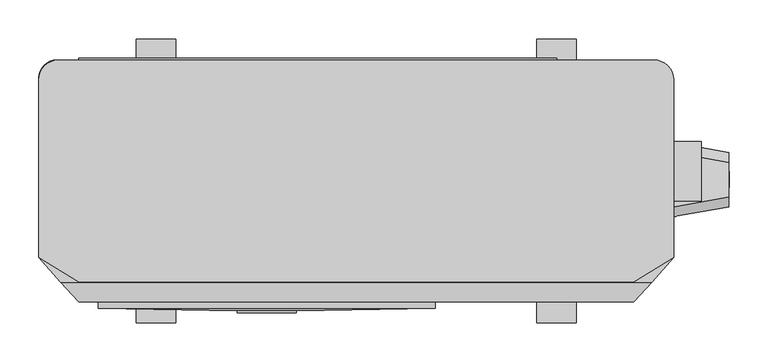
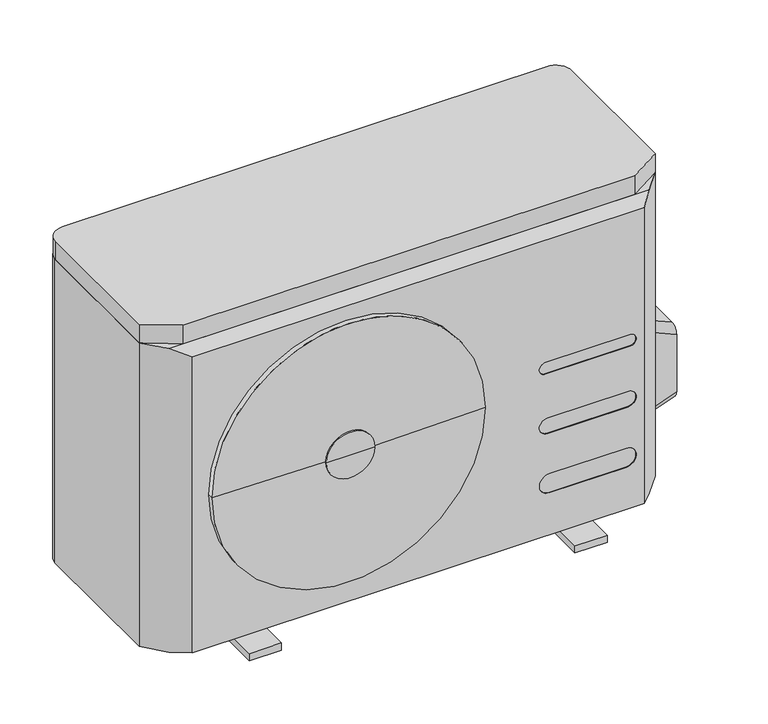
"""IFC4 building model written with IfcOpenShell, lengths in millimetres: proxy geometry, Heat Pump-Split System-Outdoor-Carrier-Single Phase-0.75-3 ton : 38MAQB12R--1 - 115 v."""

from ifc_helpers import new_model, si_unit, point, frame, frame_2d, origin, origin_with_axes, place, context, project, spatial, polyline, circle_curve, trimmed, segment, composite_curve, outline, extrude, source, transform, mapped, element, save
from ifc_brep_helpers import plane_surface, cylinder_surface, revolved_surface, extruded_surface, advanced_brep


def mechanical_equipment_aaba3eb6(model_context):
    return source(origin(), model_context, "Body", "SolidModel", [
        extrude(outline(composite_curve([segment(trimmed(circle_curve(frame_2d((276.987, -114.808)), 203.2), [point((276.987, -318.008))], [point((276.987, 88.392))], False, "CARTESIAN"), True, "CONTINUOUS"), segment(trimmed(circle_curve(frame_2d((276.987, -114.808)), 203.2), [point((276.987, 88.392))], [point((276.987, -318.008))], False, "CARTESIAN"), True, "CONTINUOUS")], self_intersect=False)), frame((0.0, -129.921, 0.0), z_axis=(0.0, 1.0, 0.0), x_axis=(0.0, 0.0, 1.0)), (0.0, 0.0, 1.0), 12.7),
        extrude(outline(composite_curve([segment(trimmed(circle_curve(frame_2d((0.0, -6.35)), 6.35), [point((0.0, -12.7))], [point((0.0, 0.0))], False, "CARTESIAN"), True, "CONTINUOUS"), segment(trimmed(circle_curve(frame_2d((0.0, -6.35)), 6.35), [point((0.0, 0.0))], [point((0.0, -12.7))], False, "CARTESIAN"), True, "CONTINUOUS")], self_intersect=False)), frame((427.7726844, -6.35, 388.2202311), z_axis=(-0.5000000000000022, 0.0, 0.8660254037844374), x_axis=(0.0, -1.0, 0.0)), (0.0, 0.0, 1.0), 12.7),
        extrude(outline(composite_curve([segment(trimmed(circle_curve(frame_2d((-38.1, -6.35)), 6.35), [point((-38.1, -12.7))], [point((-38.1, 0.0))], False, "CARTESIAN"), True, "CONTINUOUS"), segment(trimmed(circle_curve(frame_2d((-38.1, -6.35)), 6.35), [point((-38.1, 0.0))], [point((-38.1, -12.7))], False, "CARTESIAN"), True, "CONTINUOUS")], self_intersect=False)), frame((427.7726844, -6.35, 388.2202311), z_axis=(-0.5000000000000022, 0.0, 0.8660254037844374), x_axis=(0.0, -1.0, 0.0)), (0.0, 0.0, 1.0), 12.7),
        extrude(outline(polyline([(376.174, 406.908), (396.6312521, 442.341), (409.3312521, 442.341), (452.374, 406.908), (376.174, 406.908)])), frame((0.0, -25.4, 0.0), z_axis=(0.0, 1.0, 0.0), x_axis=(0.0, 0.0, 1.0)), (0.0, 0.0, 1.0), 76.2),
        extrude(outline(composite_curve([segment(trimmed(circle_curve(frame_2d((1.778, 161.798)), 10.16), [point((-8.382, 161.798))], [point((11.938, 161.798))], False, "CARTESIAN"), True, "CONTINUOUS"), segment(trimmed(circle_curve(frame_2d((1.778, 161.798)), 10.16), [point((11.938, 161.798))], [point((-8.382, 161.798))], False, "CARTESIAN"), True, "CONTINUOUS")], self_intersect=False)), frame((475.234, 0.0, 0.0), z_axis=(1.0, 0.0, 0.0), x_axis=(0.0, 1.0, 0.0)), (0.0, 0.0, 1.0), 2.794),
        extrude(outline(composite_curve([segment(trimmed(circle_curve(frame_2d((1.778, 99.314)), 6.985), [point((-5.207, 99.314))], [point((8.763, 99.314))], False, "CARTESIAN"), True, "CONTINUOUS"), segment(trimmed(circle_curve(frame_2d((1.778, 99.314)), 6.985), [point((8.763, 99.314))], [point((-5.207, 99.314))], False, "CARTESIAN"), True, "CONTINUOUS")], self_intersect=False)), frame((475.234, 0.0, 0.0), z_axis=(1.0, 0.0, 0.0), x_axis=(0.0, 1.0, 0.0)), (0.0, 0.0, 1.0), 2.794),
        advanced_brep(
        [(406.908, 36.703, 238.76), (406.908, 49.403, 226.06), (406.908, 49.403, 79.629), (406.908, 36.703, 66.929), (406.908, -33.147, 66.929), (406.908, -45.847, 79.629), (406.908, -45.847, 226.06), (406.908, -33.147, 238.76), (477.774, 24.003, 200.66), (477.774, -20.447, 200.66), (477.774, -33.147, 187.96), (477.774, -33.147, 92.329), (477.774, -20.447, 79.629), (477.774, 24.003, 79.629), (477.774, 36.703, 92.329), (477.774, 36.703, 187.96)],
        [
            (0, 1, circle_curve(frame((406.908, 36.703, 226.06), z_axis=(-1.0, 0.0, 0.0), x_axis=(0.0, 1.0, 0.0)), 12.7)),
            (1, 2),
            (2, 3, circle_curve(frame((406.908, 36.703, 79.629), z_axis=(-1.0, 0.0, 0.0), x_axis=(0.0, 1.0, 0.0)), 12.7)),
            (3, 4),
            (4, 5, circle_curve(frame((406.908, -33.147, 79.629), z_axis=(-1.0, 0.0, 0.0), x_axis=(0.0, 1.0, 0.0)), 12.7)),
            (5, 6),
            (6, 7, circle_curve(frame((406.908, -33.147, 226.06), z_axis=(-1.0, 0.0, 0.0), x_axis=(0.0, 1.0, 0.0)), 12.7)),
            (7, 0),
            (8, 9),
            (9, 10, circle_curve(frame((477.774, -20.447, 187.96), z_axis=(1.0, 0.0, 0.0), x_axis=(0.0, 1.0, 0.0)), 12.7)),
            (10, 11),
            (11, 12, circle_curve(frame((477.774, -20.447, 92.329), z_axis=(1.0, 0.0, 0.0), x_axis=(0.0, 1.0, 0.0)), 12.7)),
            (12, 13),
            (13, 14, circle_curve(frame((477.774, 24.003, 92.329), z_axis=(1.0, 0.0, 0.0), x_axis=(0.0, 1.0, 0.0)), 12.7)),
            (14, 15),
            (15, 8, circle_curve(frame((477.774, 24.003, 187.96), z_axis=(1.0, 0.0, 0.0), x_axis=(0.0, 1.0, 0.0)), 12.7)),
            (8, 0),
            (7, 9),
            (6, 10),
            (5, 11),
            (4, 12),
            (3, 13),
            (2, 14),
            (1, 15),
        ],
        [
            plane_surface(frame((406.908, 1.778, 152.8445), z_axis=(-1.0, 0.0, 0.0), x_axis=(0.0, -1.0, 0.0))),
            plane_surface(frame((477.774, 1.778, 140.1445), z_axis=(1.0, 0.0, 0.0), x_axis=(0.0, -1.0, 0.0))),
            plane_surface(frame((477.774, 1.778, 200.66), z_axis=(0.47353495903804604, 0.0, 0.8807750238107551), x_axis=(0.0, 1.0, 0.0))),
            extruded_surface(trimmed(circle_curve(frame((477.774, -20.447, 187.96), z_axis=(-1.0, 0.0, 0.0), x_axis=(0.0, 1.0, 0.0)), 12.7), [point((477.774, -33.147, 187.96))], [point((477.774, -20.447, 200.66))], True, "CARTESIAN"), (-70.86599999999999, -12.7, 38.099999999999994), 81.45483384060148),
            plane_surface(frame((477.774, -33.147, 140.1445), z_axis=(0.17640114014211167, -0.98431836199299, 0.0), x_axis=(0.0, 0.0, 1.0))),
            extruded_surface(trimmed(circle_curve(frame((477.774, -20.447, 92.329), z_axis=(-1.0, 0.0, 0.0), x_axis=(0.0, 1.0, 0.0)), 12.7), [point((477.774, -20.447, 79.629))], [point((477.774, -33.147, 92.329))], True, "CARTESIAN"), (-70.86599999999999, -12.7, -12.699999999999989), 73.10656575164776),
            plane_surface(frame((477.774, 1.778, 79.629), z_axis=(0.17640114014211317, 0.0, -0.9843183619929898), x_axis=(0.0, -1.0, 0.0))),
            extruded_surface(trimmed(circle_curve(frame((477.774, 24.003, 92.329), z_axis=(-1.0, 0.0, 0.0), x_axis=(0.0, 1.0, 0.0)), 12.7), [point((477.774, 36.703, 92.329))], [point((477.774, 24.003, 79.629))], True, "CARTESIAN"), (-70.86599999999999, 12.700000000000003, -12.699999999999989), 73.10656575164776),
            plane_surface(frame((477.774, 36.703, 140.1445), z_axis=(0.1764011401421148, 0.9843183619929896, 0.0), x_axis=(0.0, 0.0, -1.0))),
            extruded_surface(trimmed(circle_curve(frame((477.774, 24.003, 187.96), z_axis=(-1.0, 0.0, 0.0), x_axis=(0.0, 1.0, 0.0)), 12.7), [point((477.774, 24.003, 200.66))], [point((477.774, 36.703, 187.96))], True, "CARTESIAN"), (-70.86599999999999, 12.700000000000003, 38.099999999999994), 81.45483384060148),
        ],
        [
            (0, [[1, 2, 3, 4, 5, 6, 7, 8]]),
            (1, [[9, 10, 11, 12, 13, 14, 15, 16]]),
            (2, [[-9, 17, -8, 18]]),
            (3, [[-10, -18, -7, 19]]),
            (4, [[-11, -19, -6, 20]]),
            (5, [[-12, -20, -5, 21]]),
            (6, [[-13, -21, -4, 22]]),
            (7, [[-14, -22, -3, 23]]),
            (8, [[-15, -23, -2, 24]]),
            (9, [[-16, -24, -1, -17]]),
        ],
    ),
        advanced_brep(
        [(101.092, -163.3934895, 276.987), (-330.708, -163.3934895, 276.987), (-330.708, -155.321, 276.987), (101.092, -155.321, 276.987), (-114.808, -155.321, 276.987), (-76.708, -166.497, 276.987), (-152.908, -166.497, 276.987), (-76.708, -169.037, 276.987), (-152.908, -169.037, 276.987), (-114.808, -169.037, 276.987)],
        [
            (0, 1, circle_curve(frame((-114.808, -163.3934895, 276.987), z_axis=(0.0, 1.0, 0.0), x_axis=(-1.0, 0.0, 0.0)), 215.9)),
            (1, 2),
            (2, 3, circle_curve(frame((-114.808, -155.321, 276.987), z_axis=(0.0, -1.0, 0.0), x_axis=(-1.0, 0.0, 0.0)), 215.9)),
            (3, 0),
            (1, 0, circle_curve(frame((-114.808, -163.3934895, 276.987), z_axis=(0.0, 1.0, 0.0), x_axis=(-1.0, 0.0, 0.0)), 215.9)),
            (3, 2, circle_curve(frame((-114.808, -155.321, 276.987), z_axis=(0.0, -1.0, 0.0), x_axis=(-1.0, 0.0, 0.0)), 215.9)),
            (2, 4),
            (4, 3),
            (5, 6, circle_curve(frame((-114.808, -166.497, 276.987), z_axis=(0.0, 1.0, 0.0), x_axis=(-1.0, 0.0, 0.0)), 38.1)),
            (6, 1),
            (0, 5),
            (6, 5, circle_curve(frame((-114.808, -166.497, 276.987), z_axis=(0.0, 1.0, 0.0), x_axis=(-1.0, 0.0, 0.0)), 38.1)),
            (7, 8, circle_curve(frame((-114.808, -169.037, 276.987), z_axis=(0.0, 1.0, 0.0), x_axis=(-1.0, 0.0, 0.0)), 38.1)),
            (8, 6),
            (5, 7),
            (8, 7, circle_curve(frame((-114.808, -169.037, 276.987), z_axis=(0.0, 1.0, 0.0), x_axis=(-1.0, 0.0, 0.0)), 38.1)),
            (9, 8),
            (7, 9),
        ],
        [
            cylinder_surface(frame((-114.808, 141.0703881, 276.987), z_axis=(0.0, -1.0, 0.0), x_axis=(-1.0, 0.0, 0.0)), 215.9),
            plane_surface(frame((-114.808, -155.321, 276.987), z_axis=(0.0, 1.0, 0.0), x_axis=(-1.0, 0.0, 0.0))),
            revolved_surface(polyline([(-330.708, -163.3934895, 276.987), (-152.908, -166.497, 276.987)]), (-114.808, 141.0703881, 276.987), (0.0, -1.0, 0.0)),
            cylinder_surface(frame((-114.808, 141.0703881, 276.987), z_axis=(0.0, -1.0, 0.0), x_axis=(-1.0, 0.0, 0.0)), 38.1),
            plane_surface(frame((-114.808, -169.037, 276.987), z_axis=(0.0, -1.0, 0.0), x_axis=(-1.0, 0.0, 0.0))),
        ],
        [
            (0, [[1, 2, 3, 4]]),
            (0, [[5, -4, 6, -2]]),
            (1, [[-3, 7, 8]]),
            (1, [[-6, -8, -7]]),
            (2, [[9, 10, -1, 11]]),
            (2, [[12, -11, -5, -10]]),
            (3, [[13, 14, -9, 15]]),
            (3, [[16, -15, -12, -14]]),
            (4, [[17, -13, 18]]),
            (4, [[-18, -16, -17]]),
        ],
    ),
        extrude(outline(composite_curve([segment(trimmed(circle_curve(frame_2d((1.778, 99.314)), 6.985), [point((-5.207, 99.314))], [point((8.763, 99.314))], False, "CARTESIAN"), True, "CONTINUOUS"), segment(trimmed(circle_curve(frame_2d((1.778, 99.314)), 6.985), [point((8.763, 99.314))], [point((-5.207, 99.314))], False, "CARTESIAN"), True, "CONTINUOUS")], self_intersect=False)), frame((401.828, 0.0, 0.0), z_axis=(1.0, 0.0, 0.0), x_axis=(0.0, 1.0, 0.0)), (0.0, 0.0, 1.0), 2.54),
        extrude(outline(composite_curve([segment(trimmed(circle_curve(frame_2d((1.778, 161.798)), 10.16), [point((-8.382, 161.798))], [point((11.938, 161.798))], False, "CARTESIAN"), True, "CONTINUOUS"), segment(trimmed(circle_curve(frame_2d((1.778, 161.798)), 10.16), [point((11.938, 161.798))], [point((-8.382, 161.798))], False, "CARTESIAN"), True, "CONTINUOUS")], self_intersect=False)), frame((401.828, 0.0, 0.0), z_axis=(1.0, 0.0, 0.0), x_axis=(0.0, 1.0, 0.0)), (0.0, 0.0, 1.0), 2.54),
        advanced_brep(
        [(406.908, -98.171, 522.574), (406.908, 129.921, 522.574), (381.508, 155.321, 522.574), (-384.048, 155.321, 522.574), (-406.908, 132.461, 522.574), (-406.908, -98.171, 522.574), (-378.6857778, -129.921, 522.574), (378.6857778, -129.921, 522.574), (-406.908, -98.171, 16.51), (-406.908, 132.461, 16.51), (-384.048, 155.321, 16.51), (381.508, 155.321, 16.51), (406.908, 129.921, 16.51), (406.908, -98.171, 16.51), (378.6857778, -129.921, 16.51), (-378.6857778, -129.921, 16.51), (-356.108, -155.321, 516.224), (-356.108, -155.321, 22.86), (356.108, -155.321, 22.86), (356.108, -155.321, 516.224), (88.392, -155.321, 276.987), (-318.008, -155.321, 276.987), (206.883, -155.321, 124.6293333), (327.533, -155.321, 124.6293333), (327.533, -155.321, 92.8793333), (206.883, -155.321, 92.8793333), (203.708, -155.321, 218.2706667), (330.708, -155.321, 218.2706667), (330.708, -155.321, 192.8706667), (203.708, -155.321, 192.8706667), (200.533, -155.321, 311.912), (333.883, -155.321, 311.912), (333.883, -155.321, 292.862), (200.533, -155.321, 292.862), (88.392, -117.221, 276.987), (-318.008, -117.221, 276.987), (327.533, -154.051, 124.6293333), (206.883, -154.051, 124.6293333), (206.883, -154.051, 92.8793333), (327.533, -154.051, 92.8793333), (330.708, -154.051, 218.2706667), (203.708, -154.051, 218.2706667), (203.708, -154.051, 192.8706667), (330.708, -154.051, 192.8706667), (333.883, -154.051, 311.912), (200.533, -154.051, 311.912), (200.533, -154.051, 292.862), (333.883, -154.051, 292.862)],
        [
            (0, 1),
            (1, 2, circle_curve(frame((381.508, 129.921, 522.574), z_axis=(0.0, 0.0, 1.0), x_axis=(1.0, 0.0, 0.0)), 25.4)),
            (2, 3),
            (3, 4, circle_curve(frame((-384.048, 132.461, 522.574), z_axis=(0.0, 0.0, 1.0), x_axis=(1.0, 0.0, 0.0)), 22.86)),
            (4, 5),
            (5, 6),
            (6, 7),
            (7, 0),
            (8, 9),
            (9, 10, circle_curve(frame((-384.048, 132.461, 16.51), z_axis=(0.0, 0.0, -1.0), x_axis=(1.0, 0.0, 0.0)), 22.86)),
            (10, 11),
            (11, 12, circle_curve(frame((381.508, 129.921, 16.51), z_axis=(0.0, 0.0, -1.0), x_axis=(1.0, 0.0, 0.0)), 25.4)),
            (12, 13),
            (13, 14),
            (14, 15),
            (15, 8),
            (4, 9),
            (8, 5),
            (16, 17),
            (17, 18),
            (18, 19),
            (19, 16),
            (20, 21, circle_curve(frame((-114.808, -155.321, 276.987), z_axis=(0.0, 1.0, 0.0), x_axis=(-1.0, 0.0, 0.0)), 203.2)),
            (21, 20, circle_curve(frame((-114.808, -155.321, 276.987), z_axis=(0.0, 1.0, 0.0), x_axis=(-1.0, 0.0, 0.0)), 203.2)),
            (22, 23),
            (23, 24, circle_curve(frame((327.533, -155.321, 108.7543333), z_axis=(0.0, 1.0, 0.0), x_axis=(-1.0, 0.0, 0.0)), 15.875)),
            (24, 25),
            (25, 22, circle_curve(frame((206.883, -155.321, 108.7543333), z_axis=(0.0, 1.0, 0.0), x_axis=(-1.0, 0.0, 0.0)), 15.875)),
            (26, 27),
            (27, 28, circle_curve(frame((330.708, -155.321, 205.5706667), z_axis=(0.0, 1.0, 0.0), x_axis=(-1.0, 0.0, 0.0)), 12.7)),
            (28, 29),
            (29, 26, circle_curve(frame((203.708, -155.321, 205.5706667), z_axis=(0.0, 1.0, 0.0), x_axis=(-1.0, 0.0, 0.0)), 12.7)),
            (30, 31),
            (31, 32, circle_curve(frame((333.883, -155.321, 302.387), z_axis=(0.0, 1.0, 0.0), x_axis=(-1.0, 0.0, 0.0)), 9.525)),
            (32, 33),
            (33, 30, circle_curve(frame((200.533, -155.321, 302.387), z_axis=(0.0, 1.0, 0.0), x_axis=(-1.0, 0.0, 0.0)), 9.525)),
            (2, 11),
            (10, 3),
            (0, 13),
            (12, 1),
            (34, 35, circle_curve(frame((-114.808, -117.221, 276.987), z_axis=(0.0, -1.0, 0.0), x_axis=(-1.0, 0.0, 0.0)), 203.2)),
            (35, 34, circle_curve(frame((-114.808, -117.221, 276.987), z_axis=(0.0, -1.0, 0.0), x_axis=(-1.0, 0.0, 0.0)), 203.2)),
            (35, 21),
            (20, 34),
            (15, 17),
            (16, 6),
            (7, 19),
            (18, 14),
            (36, 37),
            (37, 38, circle_curve(frame((206.883, -154.051, 108.7543333), z_axis=(0.0, -1.0, 0.0), x_axis=(-1.0, 0.0, 0.0)), 15.875)),
            (38, 39),
            (39, 36, circle_curve(frame((327.533, -154.051, 108.7543333), z_axis=(0.0, -1.0, 0.0), x_axis=(-1.0, 0.0, 0.0)), 15.875)),
            (40, 41),
            (41, 42, circle_curve(frame((203.708, -154.051, 205.5706667), z_axis=(0.0, -1.0, 0.0), x_axis=(-1.0, 0.0, 0.0)), 12.7)),
            (42, 43),
            (43, 40, circle_curve(frame((330.708, -154.051, 205.5706667), z_axis=(0.0, -1.0, 0.0), x_axis=(-1.0, 0.0, 0.0)), 12.7)),
            (44, 45),
            (45, 46, circle_curve(frame((200.533, -154.051, 302.387), z_axis=(0.0, -1.0, 0.0), x_axis=(-1.0, 0.0, 0.0)), 9.525)),
            (46, 47),
            (47, 44, circle_curve(frame((333.883, -154.051, 302.387), z_axis=(0.0, -1.0, 0.0), x_axis=(-1.0, 0.0, 0.0)), 9.525)),
            (36, 23),
            (22, 37),
            (25, 38),
            (24, 39),
            (40, 27),
            (26, 41),
            (29, 42),
            (28, 43),
            (44, 31),
            (30, 45),
            (33, 46),
            (32, 47),
        ],
        [
            plane_surface(frame((-356.108, -155.321, 522.574), z_axis=(0.0, 0.0, 1.0), x_axis=(0.6643638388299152, -0.7474093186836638, 0.0))),
            plane_surface(frame((-356.108, -155.321, 16.51), z_axis=(0.0, 0.0, -1.0), x_axis=(-0.6643638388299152, 0.7474093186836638, 0.0))),
            plane_surface(frame((-406.908, 132.461, 522.574), z_axis=(-1.0, 0.0, 0.0), x_axis=(0.0, 0.0, -1.0))),
            plane_surface(frame((-356.108, -155.321, 522.574), z_axis=(0.0, -1.0, 0.0), x_axis=(0.0, 0.0, -1.0))),
            plane_surface(frame((381.508, 155.321, 522.574), z_axis=(0.0, 1.0, 0.0), x_axis=(0.0, 0.0, -1.0))),
            plane_surface(frame((406.908, -98.171, 522.574), z_axis=(1.0, 0.0, 0.0), x_axis=(0.0, 0.0, -1.0))),
            cylinder_surface(frame((381.508, 129.921, 16.51), z_axis=(0.0, 0.0, 1.0), x_axis=(1.0, 0.0, 0.0)), 25.4),
            cylinder_surface(frame((-384.048, 132.461, 16.51), z_axis=(0.0, 0.0, 1.0), x_axis=(1.0, 0.0, 0.0)), 22.86),
            plane_surface(frame((-318.008, -117.221, 276.987), z_axis=(0.0, -1.0, 0.0), x_axis=(0.0, 0.0, 1.0))),
            revolved_surface(polyline([(-318.008, -117.221, 276.987), (-318.008, -155.321, 276.987)]), (-114.808, -182.372, 276.987), (0.0, 1.0, 0.0)),
            plane_surface(frame((-406.908, -98.171, 522.574), z_axis=(-0.7474093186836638, -0.6643638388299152, 0.0), x_axis=(0.0, 0.0, -1.0))),
            plane_surface(frame((356.108, -155.321, 522.574), z_axis=(0.7474093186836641, -0.6643638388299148, 0.0), x_axis=(0.0, 0.0, -1.0))),
            plane_surface(frame((311.658, -154.051, 108.7543333), z_axis=(0.0, -1.0, 0.0), x_axis=(0.0, 0.0, 1.0))),
            plane_surface(frame((206.883, -154.051, 124.6293333), z_axis=(0.0, 0.0, -1.0), x_axis=(0.0, -1.0, 0.0))),
            revolved_surface(polyline([(191.008, -154.051, 108.7543333), (191.008, -155.321, 108.7543333)]), (206.883, -155.321, 108.7543333), (0.0, 1.0, 0.0)),
            plane_surface(frame((327.533, -154.051, 92.8793333), z_axis=(0.0, 0.0, 1.0), x_axis=(0.0, -1.0, 0.0))),
            revolved_surface(polyline([(311.658, -154.051, 108.7543333), (311.658, -155.321, 108.7543333)]), (327.533, -155.321, 108.7543333), (0.0, 1.0, 0.0)),
            plane_surface(frame((203.708, -154.051, 218.2706667), z_axis=(0.0, 0.0, -1.0), x_axis=(0.0, -1.0, 0.0))),
            revolved_surface(polyline([(191.008, -154.051, 205.5706667), (191.008, -155.321, 205.5706667)]), (203.708, -155.321, 205.5706667), (0.0, 1.0, 0.0)),
            plane_surface(frame((330.708, -154.051, 192.8706667), z_axis=(0.0, 0.0, 1.0), x_axis=(0.0, -1.0, 0.0))),
            revolved_surface(polyline([(318.00800000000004, -154.051, 205.5706667), (318.00800000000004, -155.321, 205.5706667)]), (330.708, -155.321, 205.5706667), (0.0, 1.0, 0.0)),
            plane_surface(frame((200.533, -154.051, 311.912), z_axis=(0.0, 0.0, -1.0), x_axis=(0.0, -1.0, 0.0))),
            revolved_surface(polyline([(191.00799999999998, -154.051, 302.387), (191.00799999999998, -155.321, 302.387)]), (200.533, -155.321, 302.387), (0.0, 1.0, 0.0)),
            plane_surface(frame((333.883, -154.051, 292.862), z_axis=(0.0, 0.0, 1.0), x_axis=(0.0, -1.0, 0.0))),
            revolved_surface(polyline([(324.358, -154.051, 302.387), (324.358, -155.321, 302.387)]), (333.883, -155.321, 302.387), (0.0, 1.0, 0.0)),
            plane_surface(frame((406.908, -155.321, 516.224), z_axis=(0.0, -0.2425356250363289, 0.970142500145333), x_axis=(-1.0, 0.0, 0.0))),
            plane_surface(frame((406.908, -129.921, 16.51), z_axis=(0.0, -0.24253562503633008, -0.9701425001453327), x_axis=(-1.0, 0.0, 0.0))),
        ],
        [
            (0, [[1, 2, 3, 4, 5, 6, 7, 8]]),
            (1, [[9, 10, 11, 12, 13, 14, 15, 16]]),
            (2, [[-5, 17, -9, 18]]),
            (3, [[19, 20, 21, 22], [23, 24], [25, 26, 27, 28], [29, 30, 31, 32], [33, 34, 35, 36]]),
            (4, [[-3, 37, -11, 38]]),
            (5, [[-1, 39, -13, 40]]),
            (6, [[-2, -40, -12, -37]]),
            (7, [[-4, -38, -10, -17]]),
            (8, [[41, 42]]),
            (9, [[-42, 43, -23, 44]]),
            (9, [[-41, -44, -24, -43]]),
            (10, [[-18, -16, 45, -19, 46, -6]]),
            (11, [[-39, -8, 47, -21, 48, -14]]),
            (12, [[49, 50, 51, 52]]),
            (12, [[53, 54, 55, 56]]),
            (12, [[57, 58, 59, 60]]),
            (13, [[-49, 61, -25, 62]]),
            (14, [[-50, -62, -28, 63]]),
            (15, [[-51, -63, -27, 64]]),
            (16, [[-52, -64, -26, -61]]),
            (17, [[-53, 65, -29, 66]]),
            (18, [[-54, -66, -32, 67]]),
            (19, [[-55, -67, -31, 68]]),
            (20, [[-56, -68, -30, -65]]),
            (21, [[-57, 69, -33, 70]]),
            (22, [[-58, -70, -36, 71]]),
            (23, [[-59, -71, -35, 72]]),
            (24, [[-60, -72, -34, -69]]),
            (25, [[-7, -46, -22, -47]]),
            (26, [[-15, -48, -20, -45]]),
        ],
    ),
        extrude(outline(polyline([(-356.108, 157.861), (256.794, 157.861), (256.794, 155.321), (-356.108, 155.321), (-356.108, 157.861)])), frame((0.0, 0.0, 26.67), z_axis=(0.0, 0.0, 1.0), x_axis=(1.0, 0.0, 0.0)), (0.0, 0.0, 1.0), 490.824),
        extrude(outline(composite_curve([segment(trimmed(circle_curve(frame_2d((381.508, 129.921)), 25.4), [point((381.508, 155.321))], [point((406.908, 129.921))], False, "CARTESIAN"), True, "CONTINUOUS"), segment(polyline([(406.908, 129.921), (406.908, -98.171), (356.108, -129.921), (-356.108, -129.921), (-406.908, -98.171), (-406.908, 129.921)]), True, "CONTINUOUS"), segment(trimmed(circle_curve(frame_2d((-381.508, 129.921)), 25.4), [point((-406.908, 129.921))], [point((-381.508, 155.321))], False, "CARTESIAN"), True, "CONTINUOUS"), segment(polyline([(-381.508, 155.321), (381.508, 155.321)]), True, "CONTINUOUS")], self_intersect=False)), frame((0.0, 0.0, 522.574), z_axis=(0.0, 0.0, 1.0), x_axis=(1.0, 0.0, 0.0)), (0.0, 0.0, 1.0), 31.4),
        extrude(outline(polyline([(-231.394, 182.372), (-231.394, -182.372), (-282.194, -182.372), (-282.194, 182.372), (-231.394, 182.372)])), origin_with_axes(), (0.0, 0.0, 1.0), 11.938),
        extrude(outline(polyline([(282.194, 182.372), (282.194, -182.372), (231.394, -182.372), (231.394, 182.372), (282.194, 182.372)])), origin_with_axes(), (0.0, 0.0, 1.0), 11.938),
        extrude(outline(polyline([(368.808, 117.221), (368.808, -117.221), (-368.808, -117.221), (-368.808, 117.221), (368.808, 117.221)])), frame((0.0, 0.0, 11.938), z_axis=(0.0, 0.0, 1.0), x_axis=(1.0, 0.0, 0.0)), (0.0, 0.0, 1.0), 4.572),
    ])


if __name__ == "__main__":
    model = new_model("IFC4")
    model_context = context("Model", 3, world=origin())
    ifc_project = project(units=[si_unit("LENGTHUNIT", "METRE", prefix="MILLI")], contexts=[model_context])
    site = spatial("IfcSite", under=ifc_project)
    building = spatial("IfcBuilding", under=site)
    placement = place(None, origin())
    mechanical_equipment_shape = mechanical_equipment_aaba3eb6(model_context)
    element("IfcBuildingElementProxy", 1, Name="Heat Pump-Split System-Outdoor-Carrier-Single Phase-0.75-3 ton : 38MAQB12R--1 - 115 v", ObjectType="Heat Pump-Split System-Outdoor-Carrier-Single Phase-0.75-3 ton : 38MAQB12R--1 - 115 v", at=placement, inside=building, context=model_context, shape_type="MappedRepresentation", body=[
        mapped(mechanical_equipment_shape, transform((0.0, 0.0, 0.0), x_axis=(1.0, 0.0, 0.0), y_axis=(0.0, 1.0, 0.0), z_axis=(0.0, 0.0, 1.0))),
    ])
    save(model, "model.ifc")
